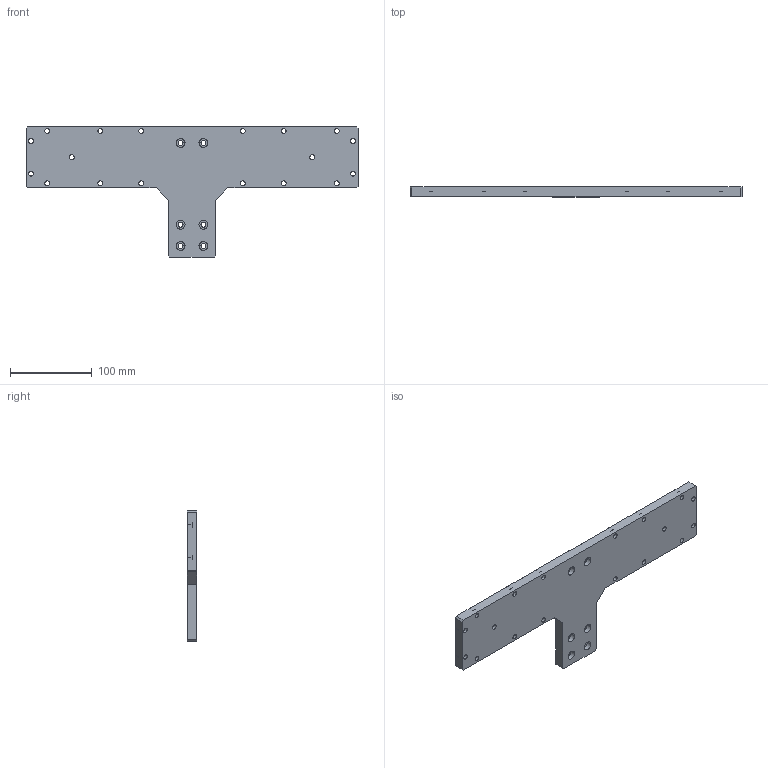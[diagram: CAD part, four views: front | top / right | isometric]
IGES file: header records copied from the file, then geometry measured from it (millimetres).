
Start section:  PTC IGES file: k60-k80l-st.igs
Global section: file name: k60-k80l-st.igs; native system: Pro/ENGINEER by Parametric Technology Corporation; preprocessor: 2008230; author: Owner; organization: Unknown; date: 20121211.151201; units: millimetre
Bounding box: 406 x 12 x 160 mm (x, y, z)
Surface area: 90808.2 mm2 (no closed solid volume)
Topology: 0 solids, 0 shells, 138 faces, 720 edges, 713 vertices
Faces by surface type: revolution 96, bspline 42
